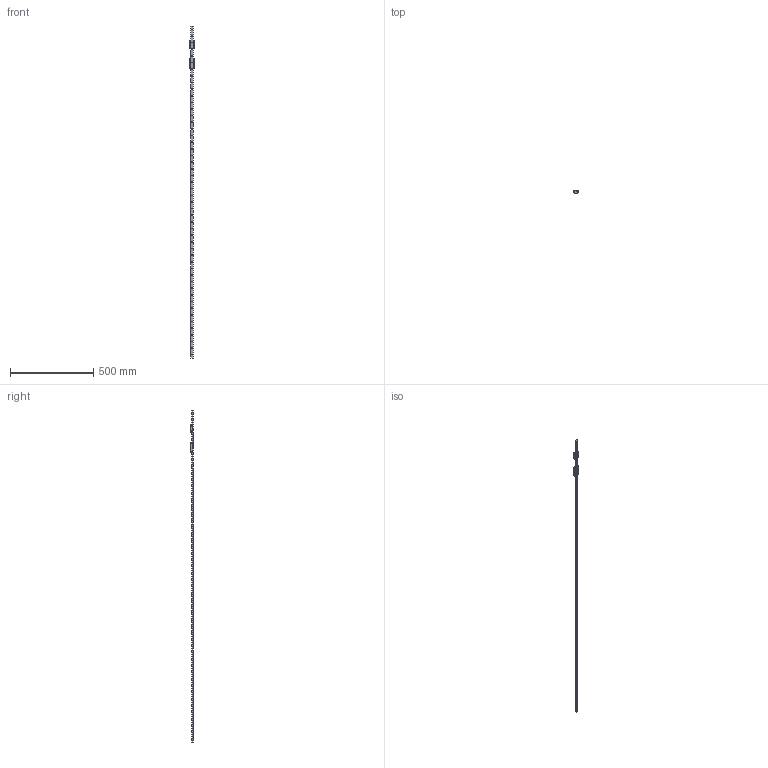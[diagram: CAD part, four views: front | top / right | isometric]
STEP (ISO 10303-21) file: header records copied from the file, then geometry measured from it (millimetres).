
FILE_DESCRIPTION((''),'2;1');
FILE_NAME('BMHS15-U0_LU_CUSTOMER_ASM_V2_ASM','2021-04-13T09:23:28',('TWVS2025'),(''),'CREO PARAMETRIC BY PTC INC, 2018420','CREO PARAMETRIC BY PTC INC, 2018420','');
FILE_SCHEMA(('CONFIG_CONTROL_DESIGN'));
Products named in the file (4): BMHR15-2000; BMHC15LU-00S; BMHC15-U0-00S; BMHS15-U0_LU_CUSTOMER_ASM_V2_ASM
Assembly tree (3 placements, depth 2):
  BMHS15-U0_LU_CUSTOMER_ASM_V2_ASM
    BMHR15-2000
    BMHC15LU-00S
    BMHC15-U0-00S
Bounding box: 32 x 16 x 2000 mm (x, y, z)
Volume: 290071.3 mm3; surface area: 133373.2 mm2
Topology: 3 solids, 39 shells, 2628 faces, 7199 edges, 4665 vertices
Faces by surface type: plane 1013, cylinder 979, cone 276, torus 268, bspline 60, sphere 32
Entity records: 86445 total; most frequent: CARTESIAN_POINT 18733, DIRECTION 14610, ORIENTED_EDGE 13734, EDGE_CURVE 7119, AXIS2_PLACEMENT_3D 5381, VERTEX_POINT 4667, VECTOR 3848, LINE 3848
